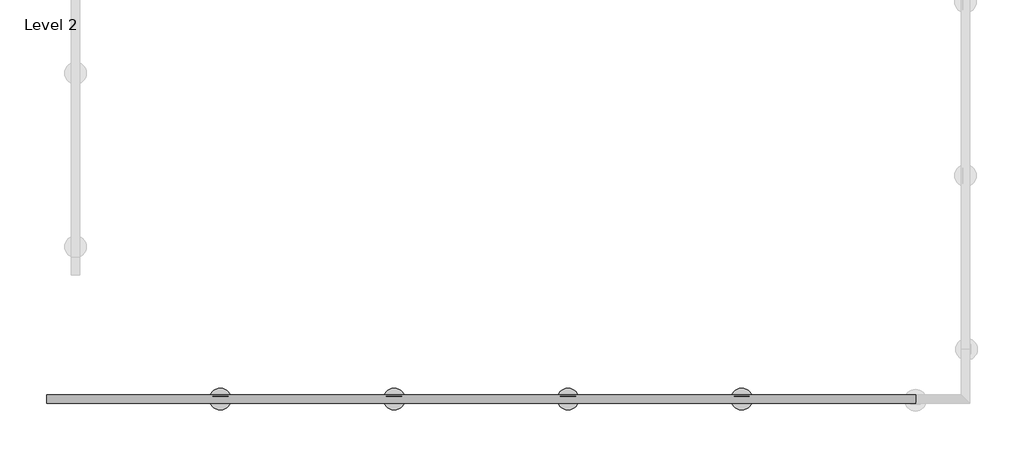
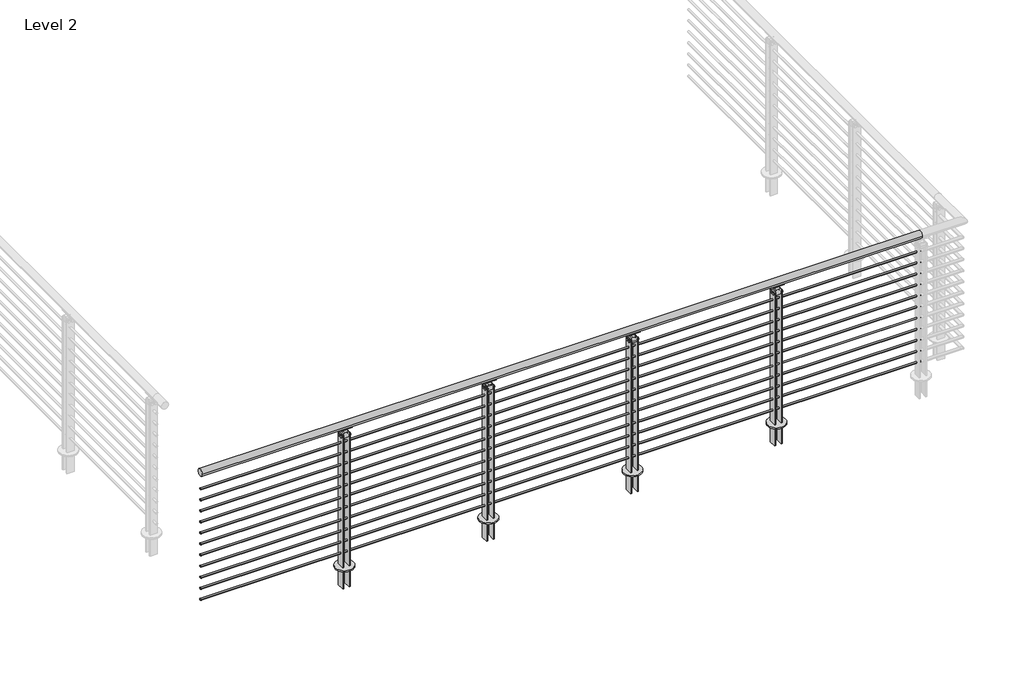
# One storey, part 17 of 31: 1 railing.
"""IFC4 building model written with IfcOpenShell, lengths in millimetres."""

from ifc_helpers import new_model, si_unit, point, frame, frame_2d, origin, place, context, project, spatial, polyline, circle_curve, trimmed, segment, composite_curve, outline, extrude, element, save
from ifc_brep_helpers import plane_surface, cylinder_surface, revolved_surface, advanced_brep

model = new_model("IFC4")

# Units and contexts
model_context = context("Model", 3, world=origin())
ifc_project = project(units=[si_unit("LENGTHUNIT", "METRE", prefix="MILLI")], contexts=[model_context])

# Site, building, storey
site = spatial("IfcSite", under=ifc_project)
building = spatial("IfcBuilding", under=site)
storey = spatial("IfcBuildingStorey", under=building, Name="Level 2", Elevation=3048.0)

# Railing
placement = place(None, origin())
element("IfcRailing", 1, ObjectType="VIVA-BLADE-Multiline-Core Mount-Straight", at=placement, inside=storey, context=model_context, shape_type="SolidModel", body=[
    extrude(outline(composite_curve([segment(trimmed(circle_curve(frame_2d((-69935.5426165, 4102.1)), 25.4), [point((-69960.9426165, 4102.1))], [point((-69910.1426165, 4102.1))], False, "CARTESIAN"), True, "CONTINUOUS"), segment(trimmed(circle_curve(frame_2d((-69935.5426165, 4102.1)), 25.4), [point((-69910.1426165, 4102.1))], [point((-69960.9426165, 4102.1))], False, "CARTESIAN"), True, "CONTINUOUS")], self_intersect=False)), frame((65712.0617686, 0.0, 0.0), z_axis=(1.0, 0.0, 0.0), x_axis=(0.0, 1.0, 0.0)), (0.0, 0.0, 1.0), 5080.0),
    extrude(outline(composite_curve([segment(trimmed(circle_curve(frame_2d((-69935.5426165, 3981.45)), 6.35), [point((-69929.1926165, 3981.45))], [point((-69941.8926165, 3981.45))], False, "CARTESIAN"), True, "CONTINUOUS"), segment(trimmed(circle_curve(frame_2d((-69935.5426165, 3981.45)), 6.35), [point((-69941.8926165, 3981.45))], [point((-69929.1926165, 3981.45))], False, "CARTESIAN"), True, "CONTINUOUS")], self_intersect=False)), frame((65712.0617686, 0.0, 0.0), z_axis=(1.0, 0.0, 0.0), x_axis=(0.0, 1.0, 0.0)), (0.0, 0.0, 1.0), 5080.0),
    extrude(outline(composite_curve([segment(trimmed(circle_curve(frame_2d((-69935.5426165, 3898.9)), 6.35), [point((-69929.1926165, 3898.9))], [point((-69941.8926165, 3898.9))], False, "CARTESIAN"), True, "CONTINUOUS"), segment(trimmed(circle_curve(frame_2d((-69935.5426165, 3898.9)), 6.35), [point((-69941.8926165, 3898.9))], [point((-69929.1926165, 3898.9))], False, "CARTESIAN"), True, "CONTINUOUS")], self_intersect=False)), frame((65712.0617686, 0.0, 0.0), z_axis=(1.0, 0.0, 0.0), x_axis=(0.0, 1.0, 0.0)), (0.0, 0.0, 1.0), 5080.0),
    extrude(outline(composite_curve([segment(trimmed(circle_curve(frame_2d((-69935.5426165, 3816.35)), 6.35), [point((-69929.1926165, 3816.35))], [point((-69941.8926165, 3816.35))], False, "CARTESIAN"), True, "CONTINUOUS"), segment(trimmed(circle_curve(frame_2d((-69935.5426165, 3816.35)), 6.35), [point((-69941.8926165, 3816.35))], [point((-69929.1926165, 3816.35))], False, "CARTESIAN"), True, "CONTINUOUS")], self_intersect=False)), frame((65712.0617686, 0.0, 0.0), z_axis=(1.0, 0.0, 0.0), x_axis=(0.0, 1.0, 0.0)), (0.0, 0.0, 1.0), 5080.0),
    extrude(outline(composite_curve([segment(trimmed(circle_curve(frame_2d((-69935.5426165, 3733.8)), 6.35), [point((-69929.1926165, 3733.8))], [point((-69941.8926165, 3733.8))], False, "CARTESIAN"), True, "CONTINUOUS"), segment(trimmed(circle_curve(frame_2d((-69935.5426165, 3733.8)), 6.35), [point((-69941.8926165, 3733.8))], [point((-69929.1926165, 3733.8))], False, "CARTESIAN"), True, "CONTINUOUS")], self_intersect=False)), frame((65712.0617686, 0.0, 0.0), z_axis=(1.0, 0.0, 0.0), x_axis=(0.0, 1.0, 0.0)), (0.0, 0.0, 1.0), 5080.0),
    extrude(outline(composite_curve([segment(trimmed(circle_curve(frame_2d((-69935.5426165, 3651.25)), 6.35), [point((-69929.1926165, 3651.25))], [point((-69941.8926165, 3651.25))], False, "CARTESIAN"), True, "CONTINUOUS"), segment(trimmed(circle_curve(frame_2d((-69935.5426165, 3651.25)), 6.35), [point((-69941.8926165, 3651.25))], [point((-69929.1926165, 3651.25))], False, "CARTESIAN"), True, "CONTINUOUS")], self_intersect=False)), frame((65712.0617686, 0.0, 0.0), z_axis=(1.0, 0.0, 0.0), x_axis=(0.0, 1.0, 0.0)), (0.0, 0.0, 1.0), 5080.0),
    extrude(outline(composite_curve([segment(trimmed(circle_curve(frame_2d((-69935.5426165, 3568.7)), 6.35), [point((-69929.1926165, 3568.7))], [point((-69941.8926165, 3568.7))], False, "CARTESIAN"), True, "CONTINUOUS"), segment(trimmed(circle_curve(frame_2d((-69935.5426165, 3568.7)), 6.35), [point((-69941.8926165, 3568.7))], [point((-69929.1926165, 3568.7))], False, "CARTESIAN"), True, "CONTINUOUS")], self_intersect=False)), frame((65712.0617686, 0.0, 0.0), z_axis=(1.0, 0.0, 0.0), x_axis=(0.0, 1.0, 0.0)), (0.0, 0.0, 1.0), 5080.0),
    extrude(outline(composite_curve([segment(trimmed(circle_curve(frame_2d((-69935.5426165, 3486.15)), 6.35), [point((-69929.1926165, 3486.15))], [point((-69941.8926165, 3486.15))], False, "CARTESIAN"), True, "CONTINUOUS"), segment(trimmed(circle_curve(frame_2d((-69935.5426165, 3486.15)), 6.35), [point((-69941.8926165, 3486.15))], [point((-69929.1926165, 3486.15))], False, "CARTESIAN"), True, "CONTINUOUS")], self_intersect=False)), frame((65712.0617686, 0.0, 0.0), z_axis=(1.0, 0.0, 0.0), x_axis=(0.0, 1.0, 0.0)), (0.0, 0.0, 1.0), 5080.0),
    extrude(outline(composite_curve([segment(trimmed(circle_curve(frame_2d((-69935.5426165, 3403.6)), 6.35), [point((-69929.1926165, 3403.6))], [point((-69941.8926165, 3403.6))], False, "CARTESIAN"), True, "CONTINUOUS"), segment(trimmed(circle_curve(frame_2d((-69935.5426165, 3403.6)), 6.35), [point((-69941.8926165, 3403.6))], [point((-69929.1926165, 3403.6))], False, "CARTESIAN"), True, "CONTINUOUS")], self_intersect=False)), frame((65712.0617686, 0.0, 0.0), z_axis=(1.0, 0.0, 0.0), x_axis=(0.0, 1.0, 0.0)), (0.0, 0.0, 1.0), 5080.0),
    extrude(outline(composite_curve([segment(trimmed(circle_curve(frame_2d((-69935.5426165, 3321.05)), 6.35), [point((-69929.1926165, 3321.05))], [point((-69941.8926165, 3321.05))], False, "CARTESIAN"), True, "CONTINUOUS"), segment(trimmed(circle_curve(frame_2d((-69935.5426165, 3321.05)), 6.35), [point((-69941.8926165, 3321.05))], [point((-69929.1926165, 3321.05))], False, "CARTESIAN"), True, "CONTINUOUS")], self_intersect=False)), frame((65712.0617686, 0.0, 0.0), z_axis=(1.0, 0.0, 0.0), x_axis=(0.0, 1.0, 0.0)), (0.0, 0.0, 1.0), 5080.0),
    extrude(outline(composite_curve([segment(trimmed(circle_curve(frame_2d((-69935.5426165, 3238.5)), 6.35), [point((-69929.1926165, 3238.5))], [point((-69941.8926165, 3238.5))], False, "CARTESIAN"), True, "CONTINUOUS"), segment(trimmed(circle_curve(frame_2d((-69935.5426165, 3238.5)), 6.35), [point((-69941.8926165, 3238.5))], [point((-69929.1926165, 3238.5))], False, "CARTESIAN"), True, "CONTINUOUS")], self_intersect=False)), frame((65712.0617686, 0.0, 0.0), z_axis=(1.0, 0.0, 0.0), x_axis=(0.0, 1.0, 0.0)), (0.0, 0.0, 1.0), 5080.0),
    extrude(outline(composite_curve([segment(trimmed(circle_curve(frame_2d((-69935.5426165, 3155.95)), 6.35), [point((-69929.1926165, 3155.95))], [point((-69941.8926165, 3155.95))], False, "CARTESIAN"), True, "CONTINUOUS"), segment(trimmed(circle_curve(frame_2d((-69935.5426165, 3155.95)), 6.35), [point((-69941.8926165, 3155.95))], [point((-69929.1926165, 3155.95))], False, "CARTESIAN"), True, "CONTINUOUS")], self_intersect=False)), frame((65712.0617686, 0.0, 0.0), z_axis=(1.0, 0.0, 0.0), x_axis=(0.0, 1.0, 0.0)), (0.0, 0.0, 1.0), 5080.0),
    extrude(outline(polyline([(69748.9869329, -69910.1428199), (69757.0117686, -69910.1428199), (69757.0117686, -69960.9451445), (69748.9869329, -69960.9451445), (69748.9869329, -69910.1428199)])), frame((0.0, 0.0, 2901.95), z_axis=(0.0, 0.0, 1.0), x_axis=(1.0, 0.0, 0.0)), (0.0, 0.0, 1.0), 146.05),
    extrude(outline(polyline([(69795.1117305, -69910.1428199), (69803.1127305, -69910.1428199), (69803.1127305, -69960.9451445), (69795.1117305, -69960.9451445), (69795.1117305, -69910.1428199)])), frame((0.0, 0.0, 2901.95), z_axis=(0.0, 0.0, 1.0), x_axis=(1.0, 0.0, 0.0)), (0.0, 0.0, 1.0), 146.05),
    extrude(outline(composite_curve([segment(trimmed(circle_curve(frame_2d((69776.0498317, -69935.5426165)), 63.4988059), [point((69776.0498317, -69999.0414225))], [point((69776.0498317, -69872.0438106))], False, "CARTESIAN"), True, "CONTINUOUS"), segment(trimmed(circle_curve(frame_2d((69776.0498317, -69935.5426165)), 63.4988059), [point((69776.0498317, -69872.0438106))], [point((69776.0498317, -69999.0414225))], False, "CARTESIAN"), True, "CONTINUOUS")], self_intersect=False)), frame((0.0, 0.0, 3048.0), z_axis=(0.0, 0.0, 1.0), x_axis=(1.0, 0.0, 0.0)), (0.0, 0.0, 1.0), 9.525),
    advanced_brep(
    [(69821.2991686, -69922.7824929, 4080.0967655), (69821.2991686, -69947.6545574, 4079.9535285), (69821.2991686, -69950.4634877, 4075.1267745), (69821.2991686, -69918.9465955, 4075.707533), (69730.8243686, -69922.7824929, 4080.0967655), (69730.8243686, -69918.9465955, 4075.707533), (69730.8243686, -69950.5772811, 4075.1893964), (69730.8243686, -69947.7415296, 4080.0018447)],
    [
        (0, 1, circle_curve(frame((69821.2991686, -69935.3462958, 4102.2115898), z_axis=(-1.0, 0.0, 0.0), x_axis=(0.0, 1.0, 0.0)), 25.4345159)),
        (1, 2, circle_curve(frame((69821.2991686, -69948.9861827, 4077.4993599), z_axis=(1.0, 0.0, 0.0), x_axis=(0.0, 1.0, 0.0)), 2.7949225)),
        (2, 3, circle_curve(frame((69821.2991686, -69935.2128327, 4102.9742164), z_axis=(1.0, 0.0, 0.0), x_axis=(0.0, 1.0, 0.0)), 31.75)),
        (3, 0, circle_curve(frame((69821.2991686, -69921.2349352, 4077.5784521), z_axis=(1.0, 0.0, 0.0), x_axis=(0.0, 1.0, 0.0)), 2.9558141)),
        (4, 5, circle_curve(frame((69730.8243686, -69921.2349352, 4077.5784521), z_axis=(-1.0, 0.0, 0.0), x_axis=(0.0, 1.0, 0.0)), 2.9558141)),
        (5, 6, circle_curve(frame((69730.8243686, -69935.2128327, 4102.9742164), z_axis=(-1.0, 0.0, 0.0), x_axis=(0.0, 1.0, 0.0)), 31.75)),
        (6, 7, circle_curve(frame((69730.8243686, -69948.9861827, 4077.4993599), z_axis=(-1.0, 0.0, 0.0), x_axis=(0.0, 1.0, 0.0)), 2.7949225)),
        (7, 4, circle_curve(frame((69730.8243686, -69935.3462958, 4102.2115898), z_axis=(1.0, 0.0, 0.0), x_axis=(0.0, 1.0, 0.0)), 25.4345159)),
        (0, 4),
        (7, 1),
        (6, 2),
        (5, 3),
    ],
    [
        plane_surface(frame((69821.2991686, -69909.9117799, 4102.2115898), z_axis=(1.0, 0.0, 0.0), x_axis=(0.0, 0.0, -1.0))),
        plane_surface(frame((69730.8243686, -69909.9117799, 4102.2115898), z_axis=(-1.0, 0.0, 0.0), x_axis=(0.0, 0.0, 1.0))),
        revolved_surface(polyline([(69730.8243686, -69909.91177990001, 4102.2115898), (69821.2991686, -69909.91177990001, 4102.2115898)]), (69730.8243686, -69935.3462958, 4102.2115898), (-1.0, 0.0, 0.0)),
        cylinder_surface(frame((69730.8243686, -69948.9861827, 4077.4993599), z_axis=(1.0, 0.0, 0.0), x_axis=(0.0, 1.0, 0.0)), 2.7949225),
        cylinder_surface(frame((69730.8243686, -69935.2128327, 4102.9742164), z_axis=(1.0, 0.0, 0.0), x_axis=(0.0, 1.0, 0.0)), 31.75),
        cylinder_surface(frame((69730.8243686, -69921.2349352, 4077.5784521), z_axis=(1.0, 0.0, 0.0), x_axis=(0.0, 1.0, 0.0)), 2.9558141),
    ],
    [
        (0, [[1, 2, 3, 4]]),
        (1, [[5, 6, 7, 8]]),
        (2, [[-1, 9, -8, 10]]),
        (3, [[-2, -10, -7, 11]]),
        (4, [[-3, -11, -6, 12]]),
        (5, [[-4, -12, -5, -9]]),
    ],
),
    extrude(outline(composite_curve([segment(trimmed(circle_curve(frame_2d((4062.4125, 69803.1296834)), 14.3679149), [point((4062.4125, 69788.7617686))], [point((4076.7804149, 69803.1296834))], True, "CARTESIAN"), True, "CONTINUOUS"), segment(polyline([(4076.7804149, 69803.1296834), (4076.7804149, 69748.9938537)]), True, "CONTINUOUS"), segment(trimmed(circle_curve(frame_2d((4062.4125, 69748.9938537)), 14.3679149), [point((4076.7804149, 69748.9938537))], [point((4062.4125, 69763.3617686))], True, "CARTESIAN"), True, "CONTINUOUS"), segment(polyline([(4062.4125, 69763.3617686), (4062.4125, 69788.7617686)]), True, "CONTINUOUS")], self_intersect=False)), frame((0.0, -69938.0826165, 0.0), z_axis=(0.0, 1.0, 0.0), x_axis=(0.0, 0.0, 1.0)), (0.0, 0.0, 1.0), 5.08),
    extrude(outline(polyline([(69748.9869329, -69910.1428199), (69757.0117686, -69910.1428199), (69757.0117686, -69960.9451445), (69748.9869329, -69960.9451445), (69748.9869329, -69910.1428199)])), frame((0.0, 0.0, 3048.0), z_axis=(0.0, 0.0, 1.0), x_axis=(1.0, 0.0, 0.0)), (0.0, 0.0, 1.0), 996.95),
    extrude(outline(composite_curve([segment(trimmed(circle_curve(frame_2d((-69948.2450935, 4034.0416929)), 8.89), [point((-69957.1350935, 4034.0416929))], [point((-69939.3550935, 4034.0416929))], False, "CARTESIAN"), True, "CONTINUOUS"), segment(trimmed(circle_curve(frame_2d((-69948.2450935, 4034.0416929)), 8.89), [point((-69939.3550935, 4034.0416929))], [point((-69957.1350935, 4034.0416929))], False, "CARTESIAN"), True, "CONTINUOUS")], self_intersect=False)), frame((69744.3117686, 0.0, 0.0), z_axis=(1.0, 0.0, 0.0), x_axis=(0.0, 1.0, 0.0)), (0.0, 0.0, 1.0), 63.4880631),
    extrude(outline(composite_curve([segment(trimmed(circle_curve(frame_2d((-69922.8451955, 4034.0416929)), 8.89), [point((-69931.7351955, 4034.0416929))], [point((-69913.9551955, 4034.0416929))], False, "CARTESIAN"), True, "CONTINUOUS"), segment(trimmed(circle_curve(frame_2d((-69922.8451955, 4034.0416929)), 8.89), [point((-69913.9551955, 4034.0416929))], [point((-69931.7351955, 4034.0416929))], False, "CARTESIAN"), True, "CONTINUOUS")], self_intersect=False)), frame((69744.3117686, 0.0, 0.0), z_axis=(1.0, 0.0, 0.0), x_axis=(0.0, 1.0, 0.0)), (0.0, 0.0, 1.0), 63.4880631),
    extrude(outline(polyline([(4022.7123, 69757.0117686), (4022.7123, 69795.1117686), (4056.0625, 69795.1117686), (4062.4125, 69788.7617686), (4062.4125, 69763.3617686), (4056.0625, 69757.0117686), (4022.7123, 69757.0117686)])), frame((0.0, -69960.9451445, 0.0), z_axis=(0.0, 1.0, 0.0), x_axis=(0.0, 0.0, 1.0)), (0.0, 0.0, 1.0), 50.8025279),
    extrude(outline(polyline([(69795.1117305, -69910.1428199), (69803.1127305, -69910.1428199), (69803.1127305, -69960.9451445), (69795.1117305, -69960.9451445), (69795.1117305, -69910.1428199)])), frame((0.0, 0.0, 3048.0), z_axis=(0.0, 0.0, 1.0), x_axis=(1.0, 0.0, 0.0)), (0.0, 0.0, 1.0), 996.95),
    extrude(outline(polyline([(68732.9869329, -69910.1428199), (68741.0117686, -69910.1428199), (68741.0117686, -69960.9451445), (68732.9869329, -69960.9451445), (68732.9869329, -69910.1428199)])), frame((0.0, 0.0, 2901.95), z_axis=(0.0, 0.0, 1.0), x_axis=(1.0, 0.0, 0.0)), (0.0, 0.0, 1.0), 146.05),
    extrude(outline(polyline([(68779.1117305, -69910.1428199), (68787.1127305, -69910.1428199), (68787.1127305, -69960.9451445), (68779.1117305, -69960.9451445), (68779.1117305, -69910.1428199)])), frame((0.0, 0.0, 2901.95), z_axis=(0.0, 0.0, 1.0), x_axis=(1.0, 0.0, 0.0)), (0.0, 0.0, 1.0), 146.05),
    extrude(outline(composite_curve([segment(trimmed(circle_curve(frame_2d((68760.0498317, -69935.5426165)), 63.4988059), [point((68760.0498317, -69999.0414225))], [point((68760.0498317, -69872.0438106))], False, "CARTESIAN"), True, "CONTINUOUS"), segment(trimmed(circle_curve(frame_2d((68760.0498317, -69935.5426165)), 63.4988059), [point((68760.0498317, -69872.0438106))], [point((68760.0498317, -69999.0414225))], False, "CARTESIAN"), True, "CONTINUOUS")], self_intersect=False)), frame((0.0, 0.0, 3048.0), z_axis=(0.0, 0.0, 1.0), x_axis=(1.0, 0.0, 0.0)), (0.0, 0.0, 1.0), 9.525),
    advanced_brep(
    [(68805.2991686, -69922.7824929, 4080.0967655), (68805.2991686, -69947.6545574, 4079.9535285), (68805.2991686, -69950.4634877, 4075.1267745), (68805.2991686, -69918.9465955, 4075.707533), (68714.8243686, -69922.7824929, 4080.0967655), (68714.8243686, -69918.9465955, 4075.707533), (68714.8243686, -69950.5772811, 4075.1893964), (68714.8243686, -69947.7415296, 4080.0018447)],
    [
        (0, 1, circle_curve(frame((68805.2991686, -69935.3462958, 4102.2115898), z_axis=(-1.0, 0.0, 0.0), x_axis=(0.0, 1.0, 0.0)), 25.4345159)),
        (1, 2, circle_curve(frame((68805.2991686, -69948.9861827, 4077.4993599), z_axis=(1.0, 0.0, 0.0), x_axis=(0.0, 1.0, 0.0)), 2.7949225)),
        (2, 3, circle_curve(frame((68805.2991686, -69935.2128327, 4102.9742164), z_axis=(1.0, 0.0, 0.0), x_axis=(0.0, 1.0, 0.0)), 31.75)),
        (3, 0, circle_curve(frame((68805.2991686, -69921.2349352, 4077.5784521), z_axis=(1.0, 0.0, 0.0), x_axis=(0.0, 1.0, 0.0)), 2.9558141)),
        (4, 5, circle_curve(frame((68714.8243686, -69921.2349352, 4077.5784521), z_axis=(-1.0, 0.0, 0.0), x_axis=(0.0, 1.0, 0.0)), 2.9558141)),
        (5, 6, circle_curve(frame((68714.8243686, -69935.2128327, 4102.9742164), z_axis=(-1.0, 0.0, 0.0), x_axis=(0.0, 1.0, 0.0)), 31.75)),
        (6, 7, circle_curve(frame((68714.8243686, -69948.9861827, 4077.4993599), z_axis=(-1.0, 0.0, 0.0), x_axis=(0.0, 1.0, 0.0)), 2.7949225)),
        (7, 4, circle_curve(frame((68714.8243686, -69935.3462958, 4102.2115898), z_axis=(1.0, 0.0, 0.0), x_axis=(0.0, 1.0, 0.0)), 25.4345159)),
        (0, 4),
        (7, 1),
        (6, 2),
        (5, 3),
    ],
    [
        plane_surface(frame((68805.2991686, -69909.9117799, 4102.2115898), z_axis=(1.0, 0.0, 0.0), x_axis=(0.0, 0.0, -1.0))),
        plane_surface(frame((68714.8243686, -69909.9117799, 4102.2115898), z_axis=(-1.0, 0.0, 0.0), x_axis=(0.0, 0.0, 1.0))),
        revolved_surface(polyline([(68714.8243686, -69909.91177990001, 4102.2115898), (68805.2991686, -69909.91177990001, 4102.2115898)]), (68714.8243686, -69935.3462958, 4102.2115898), (-1.0, 0.0, 0.0)),
        cylinder_surface(frame((68714.8243686, -69948.9861827, 4077.4993599), z_axis=(1.0, 0.0, 0.0), x_axis=(0.0, 1.0, 0.0)), 2.7949225),
        cylinder_surface(frame((68714.8243686, -69935.2128327, 4102.9742164), z_axis=(1.0, 0.0, 0.0), x_axis=(0.0, 1.0, 0.0)), 31.75),
        cylinder_surface(frame((68714.8243686, -69921.2349352, 4077.5784521), z_axis=(1.0, 0.0, 0.0), x_axis=(0.0, 1.0, 0.0)), 2.9558141),
    ],
    [
        (0, [[1, 2, 3, 4]]),
        (1, [[5, 6, 7, 8]]),
        (2, [[-1, 9, -8, 10]]),
        (3, [[-2, -10, -7, 11]]),
        (4, [[-3, -11, -6, 12]]),
        (5, [[-4, -12, -5, -9]]),
    ],
),
    extrude(outline(composite_curve([segment(trimmed(circle_curve(frame_2d((4062.4125, 68787.1296834)), 14.3679149), [point((4062.4125, 68772.7617686))], [point((4076.7804149, 68787.1296834))], True, "CARTESIAN"), True, "CONTINUOUS"), segment(polyline([(4076.7804149, 68787.1296834), (4076.7804149, 68732.9938537)]), True, "CONTINUOUS"), segment(trimmed(circle_curve(frame_2d((4062.4125, 68732.9938537)), 14.3679149), [point((4076.7804149, 68732.9938537))], [point((4062.4125, 68747.3617686))], True, "CARTESIAN"), True, "CONTINUOUS"), segment(polyline([(4062.4125, 68747.3617686), (4062.4125, 68772.7617686)]), True, "CONTINUOUS")], self_intersect=False)), frame((0.0, -69938.0826165, 0.0), z_axis=(0.0, 1.0, 0.0), x_axis=(0.0, 0.0, 1.0)), (0.0, 0.0, 1.0), 5.08),
    extrude(outline(polyline([(68732.9869329, -69910.1428199), (68741.0117686, -69910.1428199), (68741.0117686, -69960.9451445), (68732.9869329, -69960.9451445), (68732.9869329, -69910.1428199)])), frame((0.0, 0.0, 3048.0), z_axis=(0.0, 0.0, 1.0), x_axis=(1.0, 0.0, 0.0)), (0.0, 0.0, 1.0), 996.95),
    extrude(outline(composite_curve([segment(trimmed(circle_curve(frame_2d((-69948.2450935, 4034.0416929)), 8.89), [point((-69957.1350935, 4034.0416929))], [point((-69939.3550935, 4034.0416929))], False, "CARTESIAN"), True, "CONTINUOUS"), segment(trimmed(circle_curve(frame_2d((-69948.2450935, 4034.0416929)), 8.89), [point((-69939.3550935, 4034.0416929))], [point((-69957.1350935, 4034.0416929))], False, "CARTESIAN"), True, "CONTINUOUS")], self_intersect=False)), frame((68728.3117686, 0.0, 0.0), z_axis=(1.0, 0.0, 0.0), x_axis=(0.0, 1.0, 0.0)), (0.0, 0.0, 1.0), 63.4880631),
    extrude(outline(composite_curve([segment(trimmed(circle_curve(frame_2d((-69922.8451955, 4034.0416929)), 8.89), [point((-69931.7351955, 4034.0416929))], [point((-69913.9551955, 4034.0416929))], False, "CARTESIAN"), True, "CONTINUOUS"), segment(trimmed(circle_curve(frame_2d((-69922.8451955, 4034.0416929)), 8.89), [point((-69913.9551955, 4034.0416929))], [point((-69931.7351955, 4034.0416929))], False, "CARTESIAN"), True, "CONTINUOUS")], self_intersect=False)), frame((68728.3117686, 0.0, 0.0), z_axis=(1.0, 0.0, 0.0), x_axis=(0.0, 1.0, 0.0)), (0.0, 0.0, 1.0), 63.4880631),
    extrude(outline(polyline([(4022.7123, 68741.0117686), (4022.7123, 68779.1117686), (4056.0625, 68779.1117686), (4062.4125, 68772.7617686), (4062.4125, 68747.3617686), (4056.0625, 68741.0117686), (4022.7123, 68741.0117686)])), frame((0.0, -69960.9451445, 0.0), z_axis=(0.0, 1.0, 0.0), x_axis=(0.0, 0.0, 1.0)), (0.0, 0.0, 1.0), 50.8025279),
    extrude(outline(polyline([(68779.1117305, -69910.1428199), (68787.1127305, -69910.1428199), (68787.1127305, -69960.9451445), (68779.1117305, -69960.9451445), (68779.1117305, -69910.1428199)])), frame((0.0, 0.0, 3048.0), z_axis=(0.0, 0.0, 1.0), x_axis=(1.0, 0.0, 0.0)), (0.0, 0.0, 1.0), 996.95),
    extrude(outline(polyline([(67716.9869329, -69910.1428199), (67725.0117686, -69910.1428199), (67725.0117686, -69960.9451445), (67716.9869329, -69960.9451445), (67716.9869329, -69910.1428199)])), frame((0.0, 0.0, 2901.95), z_axis=(0.0, 0.0, 1.0), x_axis=(1.0, 0.0, 0.0)), (0.0, 0.0, 1.0), 146.05),
    extrude(outline(polyline([(67763.1117305, -69910.1428199), (67771.1127305, -69910.1428199), (67771.1127305, -69960.9451445), (67763.1117305, -69960.9451445), (67763.1117305, -69910.1428199)])), frame((0.0, 0.0, 2901.95), z_axis=(0.0, 0.0, 1.0), x_axis=(1.0, 0.0, 0.0)), (0.0, 0.0, 1.0), 146.05),
    extrude(outline(composite_curve([segment(trimmed(circle_curve(frame_2d((67744.0498317, -69935.5426165)), 63.4988059), [point((67744.0498317, -69999.0414225))], [point((67744.0498317, -69872.0438106))], False, "CARTESIAN"), True, "CONTINUOUS"), segment(trimmed(circle_curve(frame_2d((67744.0498317, -69935.5426165)), 63.4988059), [point((67744.0498317, -69872.0438106))], [point((67744.0498317, -69999.0414225))], False, "CARTESIAN"), True, "CONTINUOUS")], self_intersect=False)), frame((0.0, 0.0, 3048.0), z_axis=(0.0, 0.0, 1.0), x_axis=(1.0, 0.0, 0.0)), (0.0, 0.0, 1.0), 9.525),
    advanced_brep(
    [(67789.2991686, -69922.7824929, 4080.0967655), (67789.2991686, -69947.6545574, 4079.9535285), (67789.2991686, -69950.4634877, 4075.1267745), (67789.2991686, -69918.9465955, 4075.707533), (67698.8243686, -69922.7824929, 4080.0967655), (67698.8243686, -69918.9465955, 4075.707533), (67698.8243686, -69950.5772811, 4075.1893964), (67698.8243686, -69947.7415296, 4080.0018447)],
    [
        (0, 1, circle_curve(frame((67789.2991686, -69935.3462958, 4102.2115898), z_axis=(-1.0, 0.0, 0.0), x_axis=(0.0, 1.0, 0.0)), 25.4345159)),
        (1, 2, circle_curve(frame((67789.2991686, -69948.9861827, 4077.4993599), z_axis=(1.0, 0.0, 0.0), x_axis=(0.0, 1.0, 0.0)), 2.7949225)),
        (2, 3, circle_curve(frame((67789.2991686, -69935.2128327, 4102.9742164), z_axis=(1.0, 0.0, 0.0), x_axis=(0.0, 1.0, 0.0)), 31.75)),
        (3, 0, circle_curve(frame((67789.2991686, -69921.2349352, 4077.5784521), z_axis=(1.0, 0.0, 0.0), x_axis=(0.0, 1.0, 0.0)), 2.9558141)),
        (4, 5, circle_curve(frame((67698.8243686, -69921.2349352, 4077.5784521), z_axis=(-1.0, 0.0, 0.0), x_axis=(0.0, 1.0, 0.0)), 2.9558141)),
        (5, 6, circle_curve(frame((67698.8243686, -69935.2128327, 4102.9742164), z_axis=(-1.0, 0.0, 0.0), x_axis=(0.0, 1.0, 0.0)), 31.75)),
        (6, 7, circle_curve(frame((67698.8243686, -69948.9861827, 4077.4993599), z_axis=(-1.0, 0.0, 0.0), x_axis=(0.0, 1.0, 0.0)), 2.7949225)),
        (7, 4, circle_curve(frame((67698.8243686, -69935.3462958, 4102.2115898), z_axis=(1.0, 0.0, 0.0), x_axis=(0.0, 1.0, 0.0)), 25.4345159)),
        (0, 4),
        (7, 1),
        (6, 2),
        (5, 3),
    ],
    [
        plane_surface(frame((67789.2991686, -69909.9117799, 4102.2115898), z_axis=(1.0, 0.0, 0.0), x_axis=(0.0, 0.0, -1.0))),
        plane_surface(frame((67698.8243686, -69909.9117799, 4102.2115898), z_axis=(-1.0, 0.0, 0.0), x_axis=(0.0, 0.0, 1.0))),
        revolved_surface(polyline([(67698.8243686, -69909.91177990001, 4102.2115898), (67789.2991686, -69909.91177990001, 4102.2115898)]), (67698.8243686, -69935.3462958, 4102.2115898), (-1.0, 0.0, 0.0)),
        cylinder_surface(frame((67698.8243686, -69948.9861827, 4077.4993599), z_axis=(1.0, 0.0, 0.0), x_axis=(0.0, 1.0, 0.0)), 2.7949225),
        cylinder_surface(frame((67698.8243686, -69935.2128327, 4102.9742164), z_axis=(1.0, 0.0, 0.0), x_axis=(0.0, 1.0, 0.0)), 31.75),
        cylinder_surface(frame((67698.8243686, -69921.2349352, 4077.5784521), z_axis=(1.0, 0.0, 0.0), x_axis=(0.0, 1.0, 0.0)), 2.9558141),
    ],
    [
        (0, [[1, 2, 3, 4]]),
        (1, [[5, 6, 7, 8]]),
        (2, [[-1, 9, -8, 10]]),
        (3, [[-2, -10, -7, 11]]),
        (4, [[-3, -11, -6, 12]]),
        (5, [[-4, -12, -5, -9]]),
    ],
),
    extrude(outline(composite_curve([segment(trimmed(circle_curve(frame_2d((4062.4125, 67771.1296834)), 14.3679149), [point((4062.4125, 67756.7617686))], [point((4076.7804149, 67771.1296834))], True, "CARTESIAN"), True, "CONTINUOUS"), segment(polyline([(4076.7804149, 67771.1296834), (4076.7804149, 67716.9938537)]), True, "CONTINUOUS"), segment(trimmed(circle_curve(frame_2d((4062.4125, 67716.9938537)), 14.3679149), [point((4076.7804149, 67716.9938537))], [point((4062.4125, 67731.3617686))], True, "CARTESIAN"), True, "CONTINUOUS"), segment(polyline([(4062.4125, 67731.3617686), (4062.4125, 67756.7617686)]), True, "CONTINUOUS")], self_intersect=False)), frame((0.0, -69938.0826165, 0.0), z_axis=(0.0, 1.0, 0.0), x_axis=(0.0, 0.0, 1.0)), (0.0, 0.0, 1.0), 5.08),
    extrude(outline(polyline([(67716.9869329, -69910.1428199), (67725.0117686, -69910.1428199), (67725.0117686, -69960.9451445), (67716.9869329, -69960.9451445), (67716.9869329, -69910.1428199)])), frame((0.0, 0.0, 3048.0), z_axis=(0.0, 0.0, 1.0), x_axis=(1.0, 0.0, 0.0)), (0.0, 0.0, 1.0), 996.95),
    extrude(outline(composite_curve([segment(trimmed(circle_curve(frame_2d((-69948.2450935, 4034.0416929)), 8.89), [point((-69957.1350935, 4034.0416929))], [point((-69939.3550935, 4034.0416929))], False, "CARTESIAN"), True, "CONTINUOUS"), segment(trimmed(circle_curve(frame_2d((-69948.2450935, 4034.0416929)), 8.89), [point((-69939.3550935, 4034.0416929))], [point((-69957.1350935, 4034.0416929))], False, "CARTESIAN"), True, "CONTINUOUS")], self_intersect=False)), frame((67712.3117686, 0.0, 0.0), z_axis=(1.0, 0.0, 0.0), x_axis=(0.0, 1.0, 0.0)), (0.0, 0.0, 1.0), 63.4880631),
    extrude(outline(composite_curve([segment(trimmed(circle_curve(frame_2d((-69922.8451955, 4034.0416929)), 8.89), [point((-69931.7351955, 4034.0416929))], [point((-69913.9551955, 4034.0416929))], False, "CARTESIAN"), True, "CONTINUOUS"), segment(trimmed(circle_curve(frame_2d((-69922.8451955, 4034.0416929)), 8.89), [point((-69913.9551955, 4034.0416929))], [point((-69931.7351955, 4034.0416929))], False, "CARTESIAN"), True, "CONTINUOUS")], self_intersect=False)), frame((67712.3117686, 0.0, 0.0), z_axis=(1.0, 0.0, 0.0), x_axis=(0.0, 1.0, 0.0)), (0.0, 0.0, 1.0), 63.4880631),
    extrude(outline(polyline([(4022.7123, 67725.0117686), (4022.7123, 67763.1117686), (4056.0625, 67763.1117686), (4062.4125, 67756.7617686), (4062.4125, 67731.3617686), (4056.0625, 67725.0117686), (4022.7123, 67725.0117686)])), frame((0.0, -69960.9451445, 0.0), z_axis=(0.0, 1.0, 0.0), x_axis=(0.0, 0.0, 1.0)), (0.0, 0.0, 1.0), 50.8025279),
    extrude(outline(polyline([(67763.1117305, -69910.1428199), (67771.1127305, -69910.1428199), (67771.1127305, -69960.9451445), (67763.1117305, -69960.9451445), (67763.1117305, -69910.1428199)])), frame((0.0, 0.0, 3048.0), z_axis=(0.0, 0.0, 1.0), x_axis=(1.0, 0.0, 0.0)), (0.0, 0.0, 1.0), 996.95),
    extrude(outline(polyline([(66700.9869329, -69910.1428199), (66709.0117686, -69910.1428199), (66709.0117686, -69960.9451445), (66700.9869329, -69960.9451445), (66700.9869329, -69910.1428199)])), frame((0.0, 0.0, 2901.95), z_axis=(0.0, 0.0, 1.0), x_axis=(1.0, 0.0, 0.0)), (0.0, 0.0, 1.0), 146.05),
    extrude(outline(polyline([(66747.1117305, -69910.1428199), (66755.1127305, -69910.1428199), (66755.1127305, -69960.9451445), (66747.1117305, -69960.9451445), (66747.1117305, -69910.1428199)])), frame((0.0, 0.0, 2901.95), z_axis=(0.0, 0.0, 1.0), x_axis=(1.0, 0.0, 0.0)), (0.0, 0.0, 1.0), 146.05),
    extrude(outline(composite_curve([segment(trimmed(circle_curve(frame_2d((66728.0498317, -69935.5426165)), 63.4988059), [point((66728.0498317, -69999.0414225))], [point((66728.0498317, -69872.0438106))], False, "CARTESIAN"), True, "CONTINUOUS"), segment(trimmed(circle_curve(frame_2d((66728.0498317, -69935.5426165)), 63.4988059), [point((66728.0498317, -69872.0438106))], [point((66728.0498317, -69999.0414225))], False, "CARTESIAN"), True, "CONTINUOUS")], self_intersect=False)), frame((0.0, 0.0, 3048.0), z_axis=(0.0, 0.0, 1.0), x_axis=(1.0, 0.0, 0.0)), (0.0, 0.0, 1.0), 9.525),
    advanced_brep(
    [(66773.2991686, -69922.7824929, 4080.0967655), (66773.2991686, -69947.6545574, 4079.9535285), (66773.2991686, -69950.4634877, 4075.1267745), (66773.2991686, -69918.9465955, 4075.707533), (66682.8243686, -69922.7824929, 4080.0967655), (66682.8243686, -69918.9465955, 4075.707533), (66682.8243686, -69950.5772811, 4075.1893964), (66682.8243686, -69947.7415296, 4080.0018447)],
    [
        (0, 1, circle_curve(frame((66773.2991686, -69935.3462958, 4102.2115898), z_axis=(-1.0, 0.0, 0.0), x_axis=(0.0, 1.0, 0.0)), 25.4345159)),
        (1, 2, circle_curve(frame((66773.2991686, -69948.9861827, 4077.4993599), z_axis=(1.0, 0.0, 0.0), x_axis=(0.0, 1.0, 0.0)), 2.7949225)),
        (2, 3, circle_curve(frame((66773.2991686, -69935.2128327, 4102.9742164), z_axis=(1.0, 0.0, 0.0), x_axis=(0.0, 1.0, 0.0)), 31.75)),
        (3, 0, circle_curve(frame((66773.2991686, -69921.2349352, 4077.5784521), z_axis=(1.0, 0.0, 0.0), x_axis=(0.0, 1.0, 0.0)), 2.9558141)),
        (4, 5, circle_curve(frame((66682.8243686, -69921.2349352, 4077.5784521), z_axis=(-1.0, 0.0, 0.0), x_axis=(0.0, 1.0, 0.0)), 2.9558141)),
        (5, 6, circle_curve(frame((66682.8243686, -69935.2128327, 4102.9742164), z_axis=(-1.0, 0.0, 0.0), x_axis=(0.0, 1.0, 0.0)), 31.75)),
        (6, 7, circle_curve(frame((66682.8243686, -69948.9861827, 4077.4993599), z_axis=(-1.0, 0.0, 0.0), x_axis=(0.0, 1.0, 0.0)), 2.7949225)),
        (7, 4, circle_curve(frame((66682.8243686, -69935.3462958, 4102.2115898), z_axis=(1.0, 0.0, 0.0), x_axis=(0.0, 1.0, 0.0)), 25.4345159)),
        (0, 4),
        (7, 1),
        (6, 2),
        (5, 3),
    ],
    [
        plane_surface(frame((66773.2991686, -69909.9117799, 4102.2115898), z_axis=(1.0, 0.0, 0.0), x_axis=(0.0, 0.0, -1.0))),
        plane_surface(frame((66682.8243686, -69909.9117799, 4102.2115898), z_axis=(-1.0, 0.0, 0.0), x_axis=(0.0, 0.0, 1.0))),
        revolved_surface(polyline([(66682.8243686, -69909.91177990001, 4102.2115898), (66773.2991686, -69909.91177990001, 4102.2115898)]), (66682.8243686, -69935.3462958, 4102.2115898), (-1.0, 0.0, 0.0)),
        cylinder_surface(frame((66682.8243686, -69948.9861827, 4077.4993599), z_axis=(1.0, 0.0, 0.0), x_axis=(0.0, 1.0, 0.0)), 2.7949225),
        cylinder_surface(frame((66682.8243686, -69935.2128327, 4102.9742164), z_axis=(1.0, 0.0, 0.0), x_axis=(0.0, 1.0, 0.0)), 31.75),
        cylinder_surface(frame((66682.8243686, -69921.2349352, 4077.5784521), z_axis=(1.0, 0.0, 0.0), x_axis=(0.0, 1.0, 0.0)), 2.9558141),
    ],
    [
        (0, [[1, 2, 3, 4]]),
        (1, [[5, 6, 7, 8]]),
        (2, [[-1, 9, -8, 10]]),
        (3, [[-2, -10, -7, 11]]),
        (4, [[-3, -11, -6, 12]]),
        (5, [[-4, -12, -5, -9]]),
    ],
),
    extrude(outline(composite_curve([segment(trimmed(circle_curve(frame_2d((4062.4125, 66755.1296834)), 14.3679149), [point((4062.4125, 66740.7617686))], [point((4076.7804149, 66755.1296834))], True, "CARTESIAN"), True, "CONTINUOUS"), segment(polyline([(4076.7804149, 66755.1296834), (4076.7804149, 66700.9938537)]), True, "CONTINUOUS"), segment(trimmed(circle_curve(frame_2d((4062.4125, 66700.9938537)), 14.3679149), [point((4076.7804149, 66700.9938537))], [point((4062.4125, 66715.3617686))], True, "CARTESIAN"), True, "CONTINUOUS"), segment(polyline([(4062.4125, 66715.3617686), (4062.4125, 66740.7617686)]), True, "CONTINUOUS")], self_intersect=False)), frame((0.0, -69938.0826165, 0.0), z_axis=(0.0, 1.0, 0.0), x_axis=(0.0, 0.0, 1.0)), (0.0, 0.0, 1.0), 5.08),
    extrude(outline(polyline([(66700.9869329, -69910.1428199), (66709.0117686, -69910.1428199), (66709.0117686, -69960.9451445), (66700.9869329, -69960.9451445), (66700.9869329, -69910.1428199)])), frame((0.0, 0.0, 3048.0), z_axis=(0.0, 0.0, 1.0), x_axis=(1.0, 0.0, 0.0)), (0.0, 0.0, 1.0), 996.95),
    extrude(outline(composite_curve([segment(trimmed(circle_curve(frame_2d((-69948.2450935, 4034.0416929)), 8.89), [point((-69957.1350935, 4034.0416929))], [point((-69939.3550935, 4034.0416929))], False, "CARTESIAN"), True, "CONTINUOUS"), segment(trimmed(circle_curve(frame_2d((-69948.2450935, 4034.0416929)), 8.89), [point((-69939.3550935, 4034.0416929))], [point((-69957.1350935, 4034.0416929))], False, "CARTESIAN"), True, "CONTINUOUS")], self_intersect=False)), frame((66696.3117686, 0.0, 0.0), z_axis=(1.0, 0.0, 0.0), x_axis=(0.0, 1.0, 0.0)), (0.0, 0.0, 1.0), 63.4880631),
    extrude(outline(composite_curve([segment(trimmed(circle_curve(frame_2d((-69922.8451955, 4034.0416929)), 8.89), [point((-69931.7351955, 4034.0416929))], [point((-69913.9551955, 4034.0416929))], False, "CARTESIAN"), True, "CONTINUOUS"), segment(trimmed(circle_curve(frame_2d((-69922.8451955, 4034.0416929)), 8.89), [point((-69913.9551955, 4034.0416929))], [point((-69931.7351955, 4034.0416929))], False, "CARTESIAN"), True, "CONTINUOUS")], self_intersect=False)), frame((66696.3117686, 0.0, 0.0), z_axis=(1.0, 0.0, 0.0), x_axis=(0.0, 1.0, 0.0)), (0.0, 0.0, 1.0), 63.4880631),
    extrude(outline(polyline([(4022.7123, 66709.0117686), (4022.7123, 66747.1117686), (4056.0625, 66747.1117686), (4062.4125, 66740.7617686), (4062.4125, 66715.3617686), (4056.0625, 66709.0117686), (4022.7123, 66709.0117686)])), frame((0.0, -69960.9451445, 0.0), z_axis=(0.0, 1.0, 0.0), x_axis=(0.0, 0.0, 1.0)), (0.0, 0.0, 1.0), 50.8025279),
    extrude(outline(polyline([(66747.1117305, -69910.1428199), (66755.1127305, -69910.1428199), (66755.1127305, -69960.9451445), (66747.1117305, -69960.9451445), (66747.1117305, -69910.1428199)])), frame((0.0, 0.0, 3048.0), z_axis=(0.0, 0.0, 1.0), x_axis=(1.0, 0.0, 0.0)), (0.0, 0.0, 1.0), 996.95),
])

save(model, "model.ifc")
